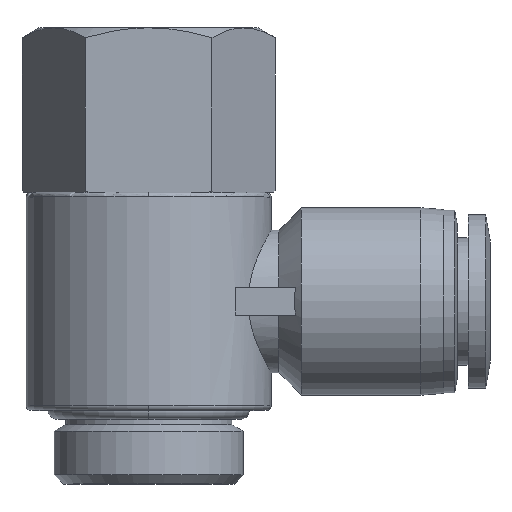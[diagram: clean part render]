
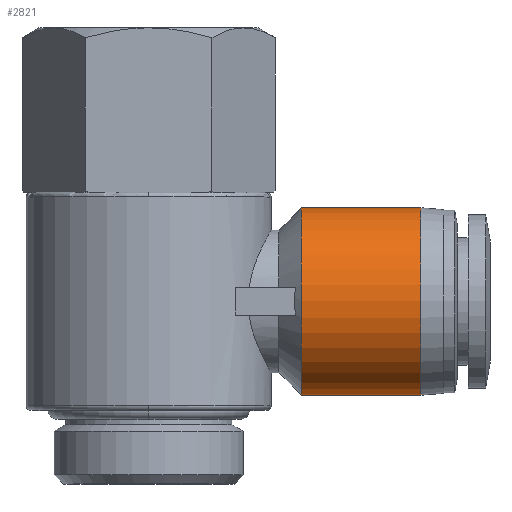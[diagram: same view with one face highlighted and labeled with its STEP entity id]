
A CAD part, top view. The second image highlights one B-rep face of the part: STEP entity #2821.
In plain terms, the highlighted cylindrical face has radius 10.25 mm (diameter 20.5 mm), a partial arc.
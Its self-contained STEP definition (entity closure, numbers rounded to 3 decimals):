
#166 = DIRECTION ( 'NONE',  ( -1., 0., 0. ) ) ;
#253 = CARTESIAN_POINT ( 'NONE',  ( 23.25, 34.125, 0. ) ) ;
#412 = ORIENTED_EDGE ( 'NONE', *, *, #1227, .F. ) ;
#475 = EDGE_LOOP ( 'NONE', ( #565, #2108, #2207, #412 ) ) ;
#481 = VECTOR ( 'NONE', #991, 1000. ) ;
#565 = ORIENTED_EDGE ( 'NONE', *, *, #713, .T. ) ;
#607 = EDGE_CURVE ( 'NONE', #2022, #876, #2597, .T. ) ;
#667 = VECTOR ( 'NONE', #1718, 1000. ) ;
#713 = EDGE_CURVE ( 'NONE', #2236, #2022, #2081, .T. ) ;
#720 = CARTESIAN_POINT ( 'NONE',  ( 16.7, 23.875, 0. ) ) ;
#811 = AXIS2_PLACEMENT_3D ( 'NONE', #253, #1188, #1440 ) ;
#840 = CARTESIAN_POINT ( 'NONE',  ( 29.8, 44.375, 0. ) ) ;
#876 = VERTEX_POINT ( 'NONE', #2046 ) ;
#904 = DIRECTION ( 'NONE',  ( -1., 0., 0. ) ) ;
#991 = DIRECTION ( 'NONE',  ( -1., 0., 0. ) ) ;
#1082 = DIRECTION ( 'NONE',  ( 0., -1., 0. ) ) ;
#1188 = DIRECTION ( 'NONE',  ( -1., 0., 0. ) ) ;
#1200 = CARTESIAN_POINT ( 'NONE',  ( 23.25, 44.375, 0. ) ) ;
#1227 = EDGE_CURVE ( 'NONE', #2236, #2628, #2163, .T. ) ;
#1440 = DIRECTION ( 'NONE',  ( 0., -1., 0. ) ) ;
#1718 = DIRECTION ( 'NONE',  ( -1., 0., 0. ) ) ;
#1830 = FACE_OUTER_BOUND ( 'NONE', #475, .T. ) ;
#1864 = AXIS2_PLACEMENT_3D ( 'NONE', #2010, #166, #1082 ) ;
#1905 = CARTESIAN_POINT ( 'NONE',  ( 29.8, 23.875, 0. ) ) ;
#1956 = DIRECTION ( 'NONE',  ( 0., -1., 0. ) ) ;
#2007 = CIRCLE ( 'NONE', #1864, 10.25 ) ;
#2010 = CARTESIAN_POINT ( 'NONE',  ( 16.7, 34.125, 0. ) ) ;
#2022 = VERTEX_POINT ( 'NONE', #840 ) ;
#2046 = CARTESIAN_POINT ( 'NONE',  ( 16.7, 44.375, 0. ) ) ;
#2074 = EDGE_CURVE ( 'NONE', #2628, #876, #2007, .T. ) ;
#2081 = CIRCLE ( 'NONE', #2315, 10.25 ) ;
#2108 = ORIENTED_EDGE ( 'NONE', *, *, #607, .T. ) ;
#2163 = LINE ( 'NONE', #2211, #667 ) ;
#2207 = ORIENTED_EDGE ( 'NONE', *, *, #2074, .F. ) ;
#2211 = CARTESIAN_POINT ( 'NONE',  ( 23.25, 23.875, 0. ) ) ;
#2236 = VERTEX_POINT ( 'NONE', #1905 ) ;
#2263 = CARTESIAN_POINT ( 'NONE',  ( 29.8, 34.125, 0. ) ) ;
#2315 = AXIS2_PLACEMENT_3D ( 'NONE', #2263, #904, #1956 ) ;
#2574 = CYLINDRICAL_SURFACE ( 'NONE', #811, 10.25 ) ;
#2597 = LINE ( 'NONE', #1200, #481 ) ;
#2628 = VERTEX_POINT ( 'NONE', #720 ) ;
#2821 = ADVANCED_FACE ( 'NONE', ( #1830 ), #2574, .T. ) ;
